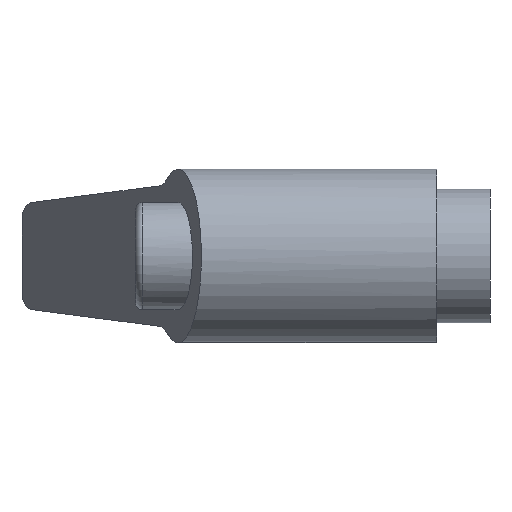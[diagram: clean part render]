
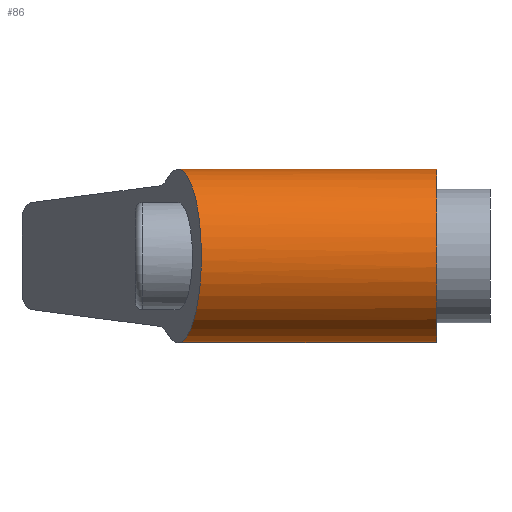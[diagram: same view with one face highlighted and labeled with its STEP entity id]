
A CAD part, left-side view. The second image highlights one B-rep face of the part: STEP entity #86.
In plain terms, the highlighted cylindrical face has radius 6.5 mm (diameter 13 mm), a full revolution.
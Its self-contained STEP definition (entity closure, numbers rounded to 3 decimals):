
#86 = ADVANCED_FACE( '', ( #127, #128 ), #129, .T. );
#127 = FACE_OUTER_BOUND( '', #185, .T. );
#128 = FACE_OUTER_BOUND( '', #186, .T. );
#129 = CYLINDRICAL_SURFACE( '', #187, 6.5 );
#185 = EDGE_LOOP( '', ( #293, #294, #295, #296 ) );
#186 = EDGE_LOOP( '', ( #297 ) );
#187 = AXIS2_PLACEMENT_3D( '', #298, #299, #300 );
#293 = ORIENTED_EDGE( '', *, *, #424, .T. );
#294 = ORIENTED_EDGE( '', *, *, #425, .T. );
#295 = ORIENTED_EDGE( '', *, *, #422, .F. );
#296 = ORIENTED_EDGE( '', *, *, #399, .F. );
#297 = ORIENTED_EDGE( '', *, *, #426, .T. );
#298 = CARTESIAN_POINT( '', ( 0., 31., 0. ) );
#299 = DIRECTION( '', ( 0., 1., 0. ) );
#300 = DIRECTION( '', ( 0., 0., -1. ) );
#399 = EDGE_CURVE( '', #458, #460, #461, .T. );
#422 = EDGE_CURVE( '', #460, #502, #503, .T. );
#424 = EDGE_CURVE( '', #458, #505, #506, .T. );
#425 = EDGE_CURVE( '', #505, #502, #507, .T. );
#426 = EDGE_CURVE( '', #508, #508, #509, .T. );
#458 = VERTEX_POINT( '', #549 );
#460 = VERTEX_POINT( '', #551 );
#461 = ELLIPSE( '', #552, 6.729, 6.5 );
#502 = VERTEX_POINT( '', #716 );
#503 = LINE( '', #717, #718 );
#505 = VERTEX_POINT( '', #729 );
#506 = LINE( '', #730, #731 );
#507 = CIRCLE( '', #732, 6.5 );
#508 = VERTEX_POINT( '', #733 );
#509 = CIRCLE( '', #734, 6.5 );
#549 = CARTESIAN_POINT( '', ( 2.838, 20.085, -5.848 ) );
#551 = CARTESIAN_POINT( '', ( 2.838, 20.085, 5.848 ) );
#552 = AXIS2_PLACEMENT_3D( '', #815, #816, #817 );
#716 = CARTESIAN_POINT( '', ( 2.838, 8.7, 5.848 ) );
#717 = CARTESIAN_POINT( '', ( 2.838, 31., 5.848 ) );
#718 = VECTOR( '', #843, 1000. );
#729 = CARTESIAN_POINT( '', ( 2.838, 8.7, -5.848 ) );
#730 = CARTESIAN_POINT( '', ( 2.838, 31., -5.848 ) );
#731 = VECTOR( '', #844, 1000. );
#732 = AXIS2_PLACEMENT_3D( '', #845, #846, #847 );
#733 = CARTESIAN_POINT( '', ( 6.5, 0., 0. ) );
#734 = AXIS2_PLACEMENT_3D( '', #848, #849, #850 );
#815 = CARTESIAN_POINT( '', ( 0., 19.325, 0. ) );
#816 = DIRECTION( '', ( -0.259, 0.966, 0. ) );
#817 = DIRECTION( '', ( -0.966, -0.259, 0. ) );
#843 = DIRECTION( '', ( 0., -1., 0. ) );
#844 = DIRECTION( '', ( 0., -1., 0. ) );
#845 = CARTESIAN_POINT( '', ( 0., 8.7, 0. ) );
#846 = DIRECTION( '', ( 0., -1., 0. ) );
#847 = DIRECTION( '', ( 1., 0., 0. ) );
#848 = CARTESIAN_POINT( '', ( 0., 0., 0. ) );
#849 = DIRECTION( '', ( 0., 1., 0. ) );
#850 = DIRECTION( '', ( 1., 0., 0. ) );
